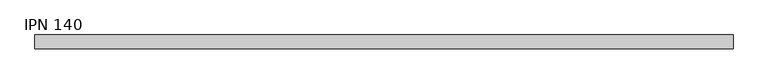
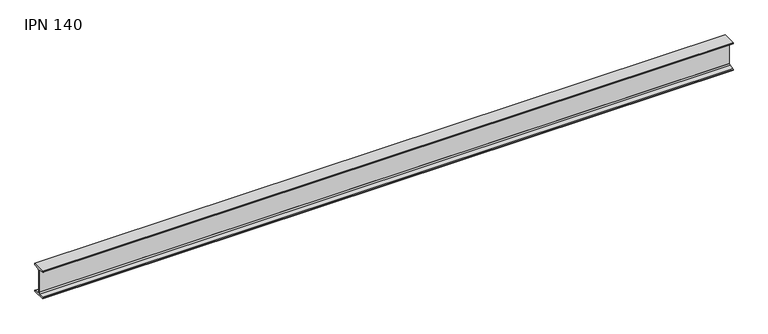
"""IFC4 building model written with IfcOpenShell, lengths in millimetres: beam geometry, IPN - Secciones en I con alas cónicas : IPN 140."""

from ifc_helpers import new_model, si_unit, point, frame, frame_2d, origin, place, context, project, spatial, polyline, circle_curve, trimmed, segment, composite_curve, outline, extrude, source, transform, mapped, element, save


def ipn_140_55316688(model_context):
    return source(origin(), model_context, "Body", "SweptSolid", [
        extrude(outline(composite_curve([segment(polyline([(33.0, 70.0), (33.0, 66.6671583)]), True, "CONTINUOUS"), segment(trimmed(circle_curve(frame_2d((29.6, 66.6671583)), 3.4), [point((33.0, 66.6671583))], [point((30.0714027, 63.2999964))], False, "CARTESIAN"), True, "CONTINUOUS"), segment(polyline([(30.0714027, 63.2999964), (7.7597073, 60.176359)]), True, "CONTINUOUS"), segment(trimmed(circle_curve(frame_2d((8.55, 54.5314111)), 5.7), [point((7.7597073, 60.176359))], [point((2.85, 54.5314111))], True, "CARTESIAN"), True, "CONTINUOUS"), segment(polyline([(2.85, 54.5314111), (2.85, -54.5314111)]), True, "CONTINUOUS"), segment(trimmed(circle_curve(frame_2d((8.55, -54.5314111)), 5.7), [point((2.85, -54.5314111))], [point((7.7597073, -60.176359))], True, "CARTESIAN"), True, "CONTINUOUS"), segment(polyline([(7.7597073, -60.176359), (30.0714027, -63.2999964)]), True, "CONTINUOUS"), segment(trimmed(circle_curve(frame_2d((29.6, -66.6671583)), 3.4), [point((30.0714027, -63.2999964))], [point((33.0, -66.6671583))], False, "CARTESIAN"), True, "CONTINUOUS"), segment(polyline([(33.0, -66.6671583), (33.0, -70.0), (-33.0, -70.0), (-33.0, -66.6671583)]), True, "CONTINUOUS"), segment(trimmed(circle_curve(frame_2d((-29.6, -66.6671583)), 3.4), [point((-33.0, -66.6671583))], [point((-30.0714027, -63.2999964))], False, "CARTESIAN"), True, "CONTINUOUS"), segment(polyline([(-30.0714027, -63.2999964), (-7.7597073, -60.176359)]), True, "CONTINUOUS"), segment(trimmed(circle_curve(frame_2d((-8.55, -54.5314111)), 5.7), [point((-7.7597073, -60.176359))], [point((-2.85, -54.5314111))], True, "CARTESIAN"), True, "CONTINUOUS"), segment(polyline([(-2.85, -54.5314111), (-2.85, 54.5314111)]), True, "CONTINUOUS"), segment(trimmed(circle_curve(frame_2d((-8.55, 54.5314111)), 5.7), [point((-2.85, 54.5314111))], [point((-7.7597073, 60.176359))], True, "CARTESIAN"), True, "CONTINUOUS"), segment(polyline([(-7.7597073, 60.176359), (-30.0714027, 63.2999964)]), True, "CONTINUOUS"), segment(trimmed(circle_curve(frame_2d((-29.6, 66.6671583)), 3.4), [point((-30.0714027, 63.2999964))], [point((-33.0, 66.6671583))], False, "CARTESIAN"), True, "CONTINUOUS"), segment(polyline([(-33.0, 66.6671583), (-33.0, 70.0), (33.0, 70.0)]), True, "CONTINUOUS")], self_intersect=False)), frame((-1655.0, 0.0, 0.0), z_axis=(1.0, 0.0, 0.0), x_axis=(0.0, 1.0, 0.0)), (0.0, 0.0, 1.0), 3310.0),
    ])


if __name__ == "__main__":
    model = new_model("IFC4")
    model_context = context("Model", 3, world=origin())
    ifc_project = project(units=[si_unit("LENGTHUNIT", "METRE", prefix="MILLI")], contexts=[model_context])
    site = spatial("IfcSite", under=ifc_project)
    building = spatial("IfcBuilding", under=site)
    placement = place(None, origin())
    ipn_140_shape = ipn_140_55316688(model_context)
    element("IfcBeam", 1, ObjectType="IPN - Secciones en I con alas cónicas : IPN 140", at=placement, inside=building, context=model_context, shape_type="MappedRepresentation", body=[
        mapped(ipn_140_shape, transform((0.0, 0.0, 0.0), x_axis=(1.0, 0.0, 0.0), y_axis=(0.0, 1.0, 0.0), z_axis=(0.0, 0.0, 1.0))),
    ])
    save(model, "model.ifc")
